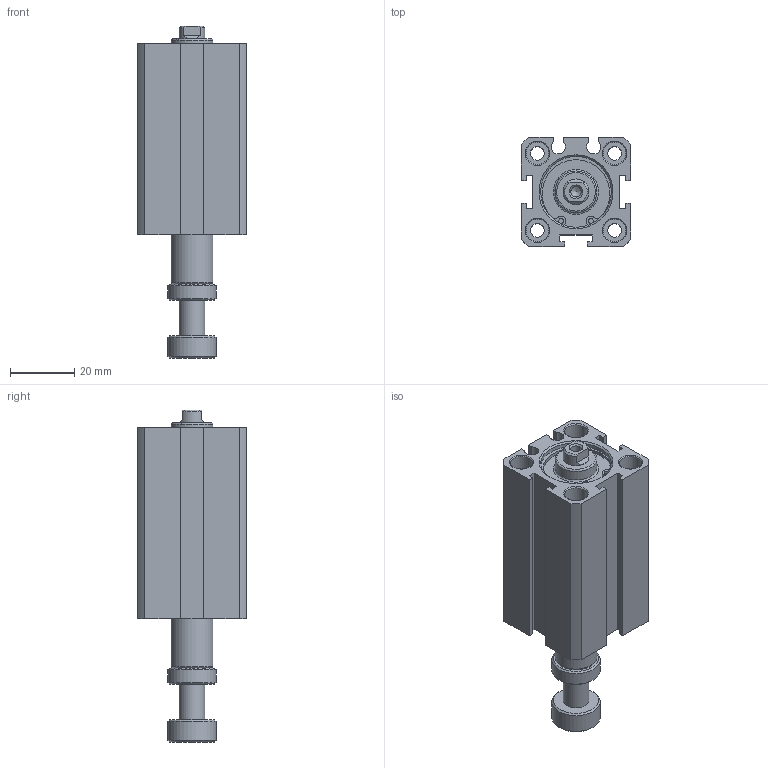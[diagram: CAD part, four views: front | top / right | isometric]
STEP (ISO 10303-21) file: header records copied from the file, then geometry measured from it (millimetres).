
FILE_DESCRIPTION((''),'2;1');
FILE_NAME('I:\3D電子目錄\氣缸\JDAR\JDAR\JDAR20\JDAR20x40.stp','2007-03-14T09:19:36',('662F206'),(''),'Autodesk Inventor 11','Autodesk Inventor 11','');
FILE_SCHEMA(('AUTOMOTIVE_DESIGN { 1 0 10303 214 1 1 1 1 }'));
Length unit declared in the file: millimetre
Products named in the file (3): JDAR20; R 形環 23
Assembly tree (3 placements, depth 2):
  JDAR20
    JDAR20
    R 形環 23  x2
Bounding box: 34 x 34 x 103.3 mm (x, y, z)
Volume: 59581.8 mm3; surface area: 20537.2 mm2
Topology: 3 solids, 3 shells, 148 faces, 336 edges, 218 vertices
Faces by surface type: plane 70, cylinder 49, cone 19, bspline 8, torus 2
Full cylindrical faces by diameter (mm): 1.5 x6, 4.3 x4, 7 x8, 8 x1, 13 x2, 15 x2, 22 x4, 23.2 x2
Entity records: 3721 total; most frequent: CARTESIAN_POINT 750, DIRECTION 626, ORIENTED_EDGE 494, AXIS2_PLACEMENT_3D 249, EDGE_CURVE 247, EDGE_LOOP 224, VERTEX_POINT 191, FACE_OUTER_BOUND 136
